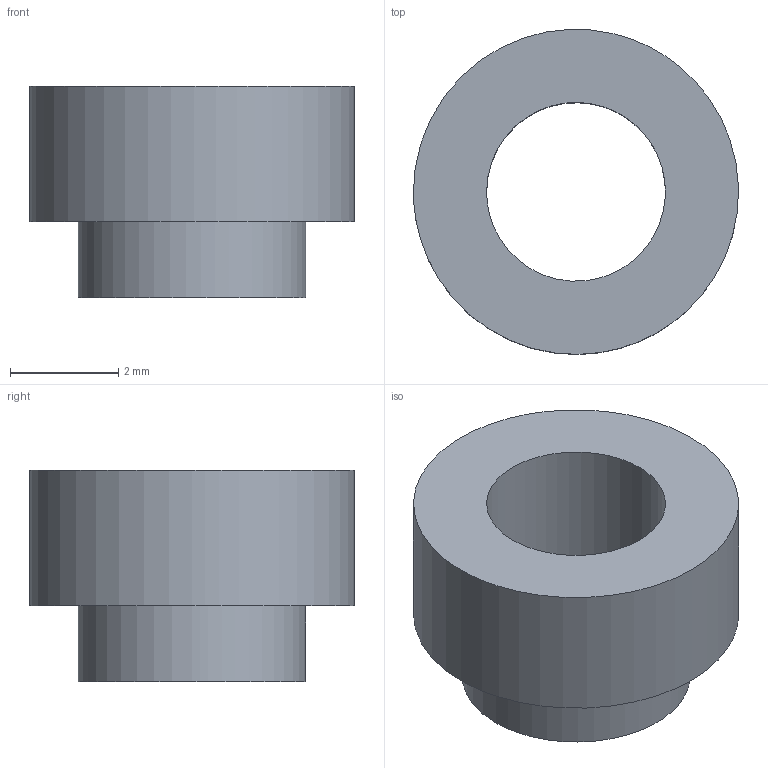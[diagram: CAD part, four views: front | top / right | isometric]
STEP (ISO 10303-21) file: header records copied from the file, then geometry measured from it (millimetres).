
FILE_DESCRIPTION(('FreeCAD Model'),'2;1');
FILE_NAME('Open CASCADE Shape Model','2026-03-20T17:23:07',('Author'),( ''),'Open CASCADE STEP processor 7.8','FreeCAD','Unknown');
FILE_SCHEMA(('AP242_MANAGED_MODEL_BASED_3D_ENGINEERING_MIM_LF. {1 0 10303 442 1 1 4 }'));
Length unit declared in the file: millimetre
Products named in the file (1): 1_transformed
Bounding box: 6 x 6 x 3.9 mm (x, y, z)
Volume: 57.2 mm3; surface area: 145.8 mm2
Topology: 1 solids, 1 shells, 6 faces, 9 edges, 6 vertices
Faces by surface type: bspline 6
Entity records: 201 total; most frequent: CARTESIAN_POINT 109, ORIENTED_EDGE 18, FACE_BOUND 9, EDGE_LOOP 9, EDGE_CURVE 9, ADVANCED_FACE 6, VERTEX_POINT 6, B_SPLINE_SURFACE_WITH_KNOTS 3
